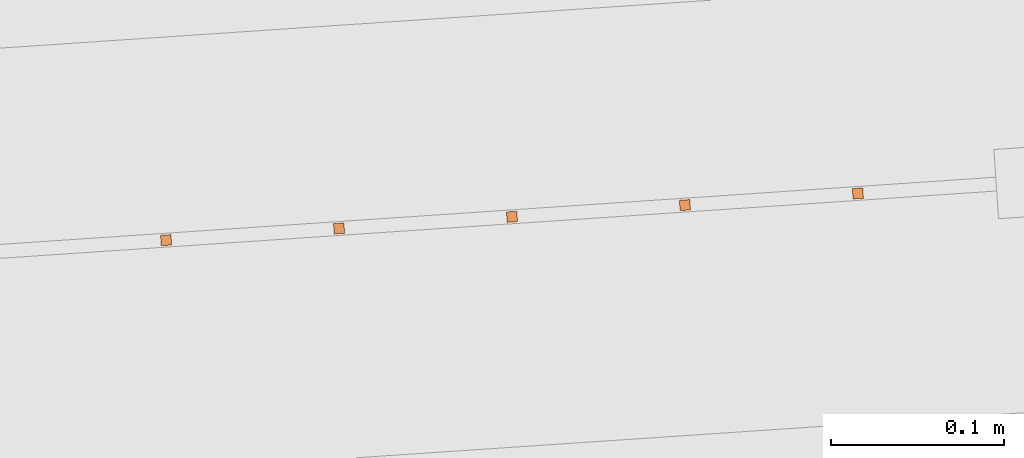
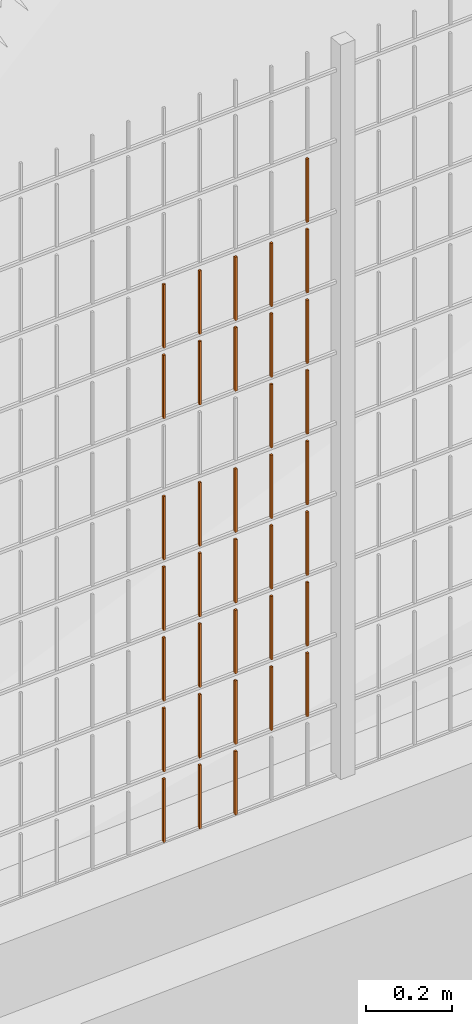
# One storey, part 75 of 1809: 36 proxies, 1 element without a shape of its own.
"""IFC2X3 building model written with IfcOpenShell, lengths in millimetres."""

from ifc_helpers import new_model, entity, si_unit, converted_unit, derived_unit, money_unit, direction, frame, origin_with_axes, place, context, subcontext, project, spatial, faceted_brep, source, transform, mapped, material, type_object, element, aggregate, save


model = new_model("IFC2X3")

# Units and contexts
model_context = context("Model", 3, precision=0.01, world=origin_with_axes(), true_north=direction((0.0, 1.0)))
body_context = subcontext(model_context, "Body", "Model", "MODEL_VIEW")
ifc_project = project(units=[si_unit("LENGTHUNIT", "METRE", prefix="MILLI"), si_unit("AREAUNIT", "SQUARE_METRE"), si_unit("VOLUMEUNIT", "CUBIC_METRE"), converted_unit("PLANEANGLEUNIT", "DEGREE", entity("IfcPlaneAngleMeasure", 0.0174532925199), si_unit("PLANEANGLEUNIT", "RADIAN"), dimensions=[0, 0, 0, 0, 0, 0, 0]), si_unit("SOLIDANGLEUNIT", "STERADIAN"), money_unit("EUR"), converted_unit("TIMEUNIT", "Year", entity("IfcTimeMeasure", 31556926.0), si_unit("TIMEUNIT", "SECOND"), dimensions=[0, 0, 1, 0, 0, 0, 0]), si_unit("MASSUNIT", "GRAM", prefix="KILO"), si_unit("THERMODYNAMICTEMPERATUREUNIT", "DEGREE_CELSIUS"), si_unit("LUMINOUSINTENSITYUNIT", "LUMEN"), si_unit("ENERGYUNIT", "JOULE", prefix="MEGA"), derived_unit("THERMALCONDUCTANCEUNIT", [(si_unit("POWERUNIT", "WATT"), 1), (si_unit("LENGTHUNIT", "METRE"), -1), (si_unit("THERMODYNAMICTEMPERATUREUNIT", "KELVIN"), -1)]), derived_unit("SPECIFICHEATCAPACITYUNIT", [(si_unit("ENERGYUNIT", "JOULE"), 1), (si_unit("MASSUNIT", "GRAM", prefix="KILO"), -1), (si_unit("THERMODYNAMICTEMPERATUREUNIT", "KELVIN"), -1)]), derived_unit("MASSDENSITYUNIT", [(si_unit("MASSUNIT", "GRAM", prefix="KILO"), 1), (si_unit("VOLUMEUNIT", "CUBIC_METRE"), -1)])], contexts=[model_context])

# Site, building, storey
site_placement = place(None, origin_with_axes())
site = spatial("IfcSite", under=ifc_project, at=site_placement, Name="Politse- ja Piirivalveameti ning Päästeameti ühishoone", CompositionType="ELEMENT")
building_placement = place(site_placement, origin_with_axes())
building = spatial("IfcBuilding", under=site, at=building_placement, Name="Politse- ja Piirivalveameti ning Päästeameti ühishoone", CompositionType="ELEMENT")
storey_placement = place(building_placement, origin_with_axes())
storey = spatial("IfcBuildingStorey", under=building, at=storey_placement, Name="Esimene korrus", CompositionType="ELEMENT", Elevation=0.0)

# Proxies
building_element_proxy_type_1 = type_object("IfcBuildingElementProxyType", Name="Railing Type", PredefinedType="NOTDEFINED")
proxy_1_placement = place(storey_placement, frame((89252.001212, -29183.4766571, 203.661247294), z_axis=(0.0, 0.0, 1.0), x_axis=(1.0, 0.0, 0.0)))
proxy_1 = element("IfcBuildingElementProxy", 1, at=proxy_1_placement, inside=storey, type_object=building_element_proxy_type_1, Name="PIIRDEAED")
ifc_material = material(Name="ET-03_Raud")
building_element_proxy_type_2 = type_object("IfcBuildingElementProxyType", Name="IfcBuildingElementProxy", PredefinedType="NOTDEFINED")
shared_shape_1 = source(origin_with_axes(), body_context, "Body", "Brep", [
    faceted_brep([(3.0, 3.0, -0.000752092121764), (-3.0, 3.0, -0.000752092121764), (-3.0, 3.0, 179.99926046), (3.0, 3.0, 179.99926046), (3.0, -3.0, 0.000752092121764), (-3.0, -3.0, 0.000752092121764), (-3.0, -3.0, 180.000764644), (3.0, -3.0, 180.000764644)], [[[0, 1, 2, 3]], [[0, 4, 5, 1]], [[1, 5, 6, 2]], [[3, 2, 6, 7]], [[4, 0, 3, 7]], [[5, 4, 7, 6]]]),
])
proxy_2_placement = place(proxy_1_placement, frame((-104987.458276, -24389.2813598, 800.85433117), z_axis=(0.0, 0.0, 1.0), x_axis=(1.0, 0.0, 0.0)))
proxy_2 = element("IfcBuildingElementProxy", 2, at=proxy_2_placement, type_object=building_element_proxy_type_2, material=ifc_material, Name="BALUSTER - 001", context=body_context, shape_type="MappedRepresentation", body=[
    mapped(shared_shape_1, transform((0.0, 0.0, 0.0), x_axis=(-0.0673926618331, 0.997726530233, 0.0), y_axis=(-0.997726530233, -0.0673926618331, 0.0), z_axis=(0.0, 0.0, 1.0))),
])
shared_shape_2 = source(origin_with_axes(), body_context, "Body", "Brep", [
    faceted_brep([(3.0, 3.0, -0.000752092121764), (-3.0, 3.0, -0.000752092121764), (-3.0, 3.0, 179.99926046), (3.0, 3.0, 179.99926046), (3.0, -3.0, 0.000752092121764), (-3.0, -3.0, 0.000752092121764), (-3.0, -3.0, 180.000764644), (3.0, -3.0, 180.000764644)], [[[0, 1, 2, 3]], [[0, 4, 5, 1]], [[1, 5, 6, 2]], [[3, 2, 6, 7]], [[4, 0, 3, 7]], [[5, 4, 7, 6]]]),
])
proxy_3_placement = place(proxy_1_placement, frame((-104787.91297, -24375.8028274, 800.904470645), z_axis=(0.0, 0.0, 1.0), x_axis=(1.0, 0.0, 0.0)))
proxy_3 = element("IfcBuildingElementProxy", 3, at=proxy_3_placement, type_object=building_element_proxy_type_2, material=ifc_material, Name="BALUSTER - 001", context=body_context, shape_type="MappedRepresentation", body=[
    mapped(shared_shape_2, transform((0.0, 0.0, 0.0), x_axis=(-0.0673926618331, 0.997726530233, 0.0), y_axis=(-0.997726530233, -0.0673926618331, 0.0), z_axis=(0.0, 0.0, 1.0))),
])
shared_shape_3 = source(origin_with_axes(), body_context, "Body", "Brep", [
    faceted_brep([(3.0, 3.0, -0.000752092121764), (-3.0, 3.0, -0.000752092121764), (-3.0, 3.0, 179.99926046), (3.0, 3.0, 179.99926046), (3.0, -3.0, 0.000752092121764), (-3.0, -3.0, 0.000752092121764), (-3.0, -3.0, 180.000764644), (3.0, -3.0, 180.000764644)], [[[0, 1, 2, 3]], [[0, 4, 5, 1]], [[1, 5, 6, 2]], [[3, 2, 6, 7]], [[4, 0, 3, 7]], [[5, 4, 7, 6]]]),
])
proxy_4_placement = place(proxy_1_placement, frame((-104787.91297, -24375.8028274, 200.904470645), z_axis=(0.0, 0.0, 1.0), x_axis=(1.0, 0.0, 0.0)))
proxy_4 = element("IfcBuildingElementProxy", 4, at=proxy_4_placement, type_object=building_element_proxy_type_2, material=ifc_material, Name="BALUSTER - 001", context=body_context, shape_type="MappedRepresentation", body=[
    mapped(shared_shape_3, transform((0.0, 0.0, 0.0), x_axis=(-0.0673926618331, 0.997726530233, 0.0), y_axis=(-0.997726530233, -0.0673926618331, 0.0), z_axis=(0.0, 0.0, 1.0))),
])
shared_shape_4 = source(origin_with_axes(), body_context, "Body", "Brep", [
    faceted_brep([(3.0, 3.0, -0.000752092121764), (-3.0, 3.0, -0.000752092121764), (-3.0, 3.0, 179.99926046), (3.0, 3.0, 179.99926046), (3.0, -3.0, 0.000752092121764), (-3.0, -3.0, 0.000752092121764), (-3.0, -3.0, 180.000764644), (3.0, -3.0, 180.000764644)], [[[0, 1, 2, 3]], [[0, 4, 5, 1]], [[1, 5, 6, 2]], [[3, 2, 6, 7]], [[4, 0, 3, 7]], [[5, 4, 7, 6]]]),
])
proxy_5_placement = place(proxy_1_placement, frame((-104787.91297, -24375.8028274, 400.904470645), z_axis=(0.0, 0.0, 1.0), x_axis=(1.0, 0.0, 0.0)))
proxy_5 = element("IfcBuildingElementProxy", 5, at=proxy_5_placement, type_object=building_element_proxy_type_2, material=ifc_material, Name="BALUSTER - 001", context=body_context, shape_type="MappedRepresentation", body=[
    mapped(shared_shape_4, transform((0.0, 0.0, 0.0), x_axis=(-0.0673926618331, 0.997726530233, 0.0), y_axis=(-0.997726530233, -0.0673926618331, 0.0), z_axis=(0.0, 0.0, 1.0))),
])
proxy_6_placement = place(proxy_1_placement, frame((-104987.458276, -24389.2813598, 400.85433117), z_axis=(0.0, 0.0, 1.0), x_axis=(1.0, 0.0, 0.0)))
proxy_6 = element("IfcBuildingElementProxy", 6, at=proxy_6_placement, type_object=building_element_proxy_type_2, material=ifc_material, Name="BALUSTER - 001", context=body_context, shape_type="MappedRepresentation", body=[
    mapped(shared_shape_4, transform((0.0, 0.0, 0.0), x_axis=(-0.0673926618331, 0.997726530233, 0.0), y_axis=(-0.997726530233, -0.0673926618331, 0.0), z_axis=(0.0, 0.0, 1.0))),
])
proxy_7_placement = place(proxy_1_placement, frame((-104787.91297, -24375.8028274, 600.904470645), z_axis=(0.0, 0.0, 1.0), x_axis=(1.0, 0.0, 0.0)))
proxy_7 = element("IfcBuildingElementProxy", 7, at=proxy_7_placement, type_object=building_element_proxy_type_2, material=ifc_material, Name="BALUSTER - 001", context=body_context, shape_type="MappedRepresentation", body=[
    mapped(shared_shape_4, transform((0.0, 0.0, 0.0), x_axis=(-0.0673926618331, 0.997726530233, 0.0), y_axis=(-0.997726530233, -0.0673926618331, 0.0), z_axis=(0.0, 0.0, 1.0))),
])
proxy_8_placement = place(proxy_1_placement, frame((-104987.458276, -24389.2813598, 600.85433117), z_axis=(0.0, 0.0, 1.0), x_axis=(1.0, 0.0, 0.0)))
proxy_8 = element("IfcBuildingElementProxy", 8, at=proxy_8_placement, type_object=building_element_proxy_type_2, material=ifc_material, Name="BALUSTER - 001", context=body_context, shape_type="MappedRepresentation", body=[
    mapped(shared_shape_4, transform((0.0, 0.0, 0.0), x_axis=(-0.0673926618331, 0.997726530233, 0.0), y_axis=(-0.997726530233, -0.0673926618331, 0.0), z_axis=(0.0, 0.0, 1.0))),
])
shared_shape_5 = source(origin_with_axes(), body_context, "Body", "Brep", [
    faceted_brep([(3.0, 3.0, -0.000752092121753), (-3.0, 3.0, -0.000752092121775), (-3.0, 3.0, 179.99926046), (3.0, 3.0, 179.99926046), (3.0, -3.0, 0.000752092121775), (-3.0, -3.0, 0.000752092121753), (-3.0, -3.0, 180.000764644), (3.0, -3.0, 180.000764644)], [[[0, 1, 2, 3]], [[0, 4, 5, 1]], [[1, 5, 6, 2]], [[3, 2, 6, 7]], [[4, 0, 3, 7]], [[5, 4, 7, 6]]]),
])
proxy_9_placement = place(proxy_1_placement, frame((-105087.230929, -24396.0206259, 0.829261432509), z_axis=(0.0, 0.0, 1.0), x_axis=(1.0, 0.0, 0.0)))
proxy_9 = element("IfcBuildingElementProxy", 9, at=proxy_9_placement, type_object=building_element_proxy_type_2, material=ifc_material, Name="BALUSTER - 001", context=body_context, shape_type="MappedRepresentation", body=[
    mapped(shared_shape_5, transform((0.0, 0.0, 0.0), x_axis=(-0.0673926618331, 0.997726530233, 0.0), y_axis=(-0.997726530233, -0.0673926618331, 0.0), z_axis=(0.0, 0.0, 1.0))),
])
shared_shape_6 = source(origin_with_axes(), body_context, "Body", "Brep", [
    faceted_brep([(3.0, 3.0, -0.000752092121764), (-3.0, 3.0, -0.000752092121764), (-3.0, 3.0, 179.99926046), (3.0, 3.0, 179.99926046), (3.0, -3.0, 0.000752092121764), (-3.0, -3.0, 0.000752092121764), (-3.0, -3.0, 180.000764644), (3.0, -3.0, 180.000764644)], [[[0, 1, 2, 3]], [[0, 4, 5, 1]], [[1, 5, 6, 2]], [[3, 2, 6, 7]], [[4, 0, 3, 7]], [[5, 4, 7, 6]]]),
])
proxy_10_placement = place(proxy_1_placement, frame((-104688.140317, -24369.0635612, 400.929540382), z_axis=(0.0, 0.0, 1.0), x_axis=(1.0, 0.0, 0.0)))
proxy_10 = element("IfcBuildingElementProxy", 10, at=proxy_10_placement, type_object=building_element_proxy_type_2, material=ifc_material, Name="BALUSTER - 001", context=body_context, shape_type="MappedRepresentation", body=[
    mapped(shared_shape_6, transform((0.0, 0.0, 0.0), x_axis=(-0.0673926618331, 0.997726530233, 0.0), y_axis=(-0.997726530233, -0.0673926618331, 0.0), z_axis=(0.0, 0.0, 1.0))),
])
proxy_11_placement = place(proxy_1_placement, frame((-104688.140317, -24369.0635612, 600.929540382), z_axis=(0.0, 0.0, 1.0), x_axis=(1.0, 0.0, 0.0)))
proxy_11 = element("IfcBuildingElementProxy", 11, at=proxy_11_placement, type_object=building_element_proxy_type_2, material=ifc_material, Name="BALUSTER - 001", context=body_context, shape_type="MappedRepresentation", body=[
    mapped(shared_shape_6, transform((0.0, 0.0, 0.0), x_axis=(-0.0673926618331, 0.997726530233, 0.0), y_axis=(-0.997726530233, -0.0673926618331, 0.0), z_axis=(0.0, 0.0, 1.0))),
])
shared_shape_7 = source(origin_with_axes(), body_context, "Body", "Brep", [
    faceted_brep([(3.0, 3.0, -0.000752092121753), (-3.0, 3.0, -0.000752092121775), (-3.0, 3.0, 179.99926046), (3.0, 3.0, 179.99926046), (3.0, -3.0, 0.000752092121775), (-3.0, -3.0, 0.000752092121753), (-3.0, -3.0, 180.000764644), (3.0, -3.0, 180.000764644)], [[[0, 1, 2, 3]], [[0, 4, 5, 1]], [[1, 5, 6, 2]], [[3, 2, 6, 7]], [[4, 0, 3, 7]], [[5, 4, 7, 6]]]),
])
proxy_12_placement = place(proxy_1_placement, frame((-104887.685623, -24382.5420936, 0.879400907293), z_axis=(0.0, 0.0, 1.0), x_axis=(1.0, 0.0, 0.0)))
proxy_12 = element("IfcBuildingElementProxy", 12, at=proxy_12_placement, type_object=building_element_proxy_type_2, material=ifc_material, Name="BALUSTER - 001", context=body_context, shape_type="MappedRepresentation", body=[
    mapped(shared_shape_7, transform((0.0, 0.0, 0.0), x_axis=(-0.0673926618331, 0.997726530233, 0.0), y_axis=(-0.997726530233, -0.0673926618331, 0.0), z_axis=(0.0, 0.0, 1.0))),
])
proxy_13_placement = place(proxy_1_placement, frame((-104887.685623, -24382.5420936, 200.879400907), z_axis=(0.0, 0.0, 1.0), x_axis=(1.0, 0.0, 0.0)))
proxy_13 = element("IfcBuildingElementProxy", 13, at=proxy_13_placement, type_object=building_element_proxy_type_2, material=ifc_material, Name="BALUSTER - 001", context=body_context, shape_type="MappedRepresentation", body=[
    mapped(shared_shape_7, transform((0.0, 0.0, 0.0), x_axis=(-0.0673926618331, 0.997726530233, 0.0), y_axis=(-0.997726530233, -0.0673926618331, 0.0), z_axis=(0.0, 0.0, 1.0))),
])
shared_shape_8 = source(origin_with_axes(), body_context, "Body", "Brep", [
    faceted_brep([(3.0, 3.0, -0.000752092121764), (-3.0, 3.0, -0.000752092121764), (-3.0, 3.0, 179.99926046), (3.0, 3.0, 179.99926046), (3.0, -3.0, 0.000752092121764), (-3.0, -3.0, 0.000752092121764), (-3.0, -3.0, 180.000764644), (3.0, -3.0, 180.000764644)], [[[0, 1, 2, 3]], [[0, 4, 5, 1]], [[1, 5, 6, 2]], [[3, 2, 6, 7]], [[4, 0, 3, 7]], [[5, 4, 7, 6]]]),
])
proxy_14_placement = place(proxy_1_placement, frame((-104688.140317, -24369.0635612, 200.929540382), z_axis=(0.0, 0.0, 1.0), x_axis=(1.0, 0.0, 0.0)))
proxy_14 = element("IfcBuildingElementProxy", 14, at=proxy_14_placement, type_object=building_element_proxy_type_2, material=ifc_material, Name="BALUSTER - 001", context=body_context, shape_type="MappedRepresentation", body=[
    mapped(shared_shape_8, transform((0.0, 0.0, 0.0), x_axis=(-0.0673926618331, 0.997726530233, 0.0), y_axis=(-0.997726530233, -0.0673926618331, 0.0), z_axis=(0.0, 0.0, 1.0))),
])
shared_shape_9 = source(origin_with_axes(), body_context, "Body", "Brep", [
    faceted_brep([(3.0, 3.0, -0.000752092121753), (-3.0, 3.0, -0.000752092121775), (-3.0, 3.0, 179.99926046), (3.0, 3.0, 179.99926046), (3.0, -3.0, 0.000752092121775), (-3.0, -3.0, 0.000752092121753), (-3.0, -3.0, 180.000764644), (3.0, -3.0, 180.000764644)], [[[0, 1, 2, 3]], [[0, 4, 5, 1]], [[1, 5, 6, 2]], [[3, 2, 6, 7]], [[4, 0, 3, 7]], [[5, 4, 7, 6]]]),
])
proxy_15_placement = place(proxy_1_placement, frame((-104887.685623, -24382.5420936, 400.879400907), z_axis=(0.0, 0.0, 1.0), x_axis=(1.0, 0.0, 0.0)))
proxy_15 = element("IfcBuildingElementProxy", 15, at=proxy_15_placement, type_object=building_element_proxy_type_2, material=ifc_material, Name="BALUSTER - 001", context=body_context, shape_type="MappedRepresentation", body=[
    mapped(shared_shape_9, transform((0.0, 0.0, 0.0), x_axis=(-0.0673926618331, 0.997726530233, 0.0), y_axis=(-0.997726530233, -0.0673926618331, 0.0), z_axis=(0.0, 0.0, 1.0))),
])
shared_shape_10 = source(origin_with_axes(), body_context, "Body", "Brep", [
    faceted_brep([(3.0, 3.0, -0.000752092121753), (-3.0, 3.0, -0.000752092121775), (-3.0, 3.0, 179.99926046), (3.0, 3.0, 179.99926046), (3.0, -3.0, 0.000752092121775), (-3.0, -3.0, 0.000752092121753), (-3.0, -3.0, 180.000764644), (3.0, -3.0, 180.000764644)], [[[0, 1, 2, 3]], [[0, 4, 5, 1]], [[1, 5, 6, 2]], [[3, 2, 6, 7]], [[4, 0, 3, 7]], [[5, 4, 7, 6]]]),
])
proxy_16_placement = place(proxy_1_placement, frame((-105087.230929, -24396.0206259, 800.829261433), z_axis=(0.0, 0.0, 1.0), x_axis=(1.0, 0.0, 0.0)))
proxy_16 = element("IfcBuildingElementProxy", 16, at=proxy_16_placement, type_object=building_element_proxy_type_2, material=ifc_material, Name="BALUSTER - 001", context=body_context, shape_type="MappedRepresentation", body=[
    mapped(shared_shape_10, transform((0.0, 0.0, 0.0), x_axis=(-0.0673926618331, 0.997726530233, 0.0), y_axis=(-0.997726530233, -0.0673926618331, 0.0), z_axis=(0.0, 0.0, 1.0))),
])
proxy_17_placement = place(proxy_1_placement, frame((-105087.230929, -24396.0206259, 1200.82926143), z_axis=(0.0, 0.0, 1.0), x_axis=(1.0, 0.0, 0.0)))
proxy_17 = element("IfcBuildingElementProxy", 17, at=proxy_17_placement, type_object=building_element_proxy_type_2, material=ifc_material, Name="BALUSTER - 001", context=body_context, shape_type="MappedRepresentation", body=[
    mapped(shared_shape_10, transform((0.0, 0.0, 0.0), x_axis=(-0.0673926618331, 0.997726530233, 0.0), y_axis=(-0.997726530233, -0.0673926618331, 0.0), z_axis=(0.0, 0.0, 1.0))),
])
shared_shape_11 = source(origin_with_axes(), body_context, "Body", "Brep", [
    faceted_brep([(3.0, 3.0, -0.000752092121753), (-3.0, 3.0, -0.000752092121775), (-3.0, 3.0, 179.99926046), (3.0, 3.0, 179.99926046), (3.0, -3.0, 0.000752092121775), (-3.0, -3.0, 0.000752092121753), (-3.0, -3.0, 180.000764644), (3.0, -3.0, 180.000764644)], [[[0, 1, 2, 3]], [[0, 4, 5, 1]], [[1, 5, 6, 2]], [[3, 2, 6, 7]], [[4, 0, 3, 7]], [[5, 4, 7, 6]]]),
])
proxy_18_placement = place(proxy_1_placement, frame((-105087.230929, -24396.0206259, 1400.82926143), z_axis=(0.0, 0.0, 1.0), x_axis=(1.0, 0.0, 0.0)))
proxy_18 = element("IfcBuildingElementProxy", 18, at=proxy_18_placement, type_object=building_element_proxy_type_2, material=ifc_material, Name="BALUSTER - 001", context=body_context, shape_type="MappedRepresentation", body=[
    mapped(shared_shape_11, transform((0.0, 0.0, 0.0), x_axis=(-0.0673926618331, 0.997726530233, 0.0), y_axis=(-0.997726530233, -0.0673926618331, 0.0), z_axis=(0.0, 0.0, 1.0))),
])
shared_shape_12 = source(origin_with_axes(), body_context, "Body", "Brep", [
    faceted_brep([(3.0, 3.0, -0.000752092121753), (-3.0, 3.0, -0.000752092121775), (-3.0, 3.0, 179.99926046), (3.0, 3.0, 179.99926046), (3.0, -3.0, 0.000752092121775), (-3.0, -3.0, 0.000752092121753), (-3.0, -3.0, 180.000764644), (3.0, -3.0, 180.000764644)], [[[0, 1, 2, 3]], [[0, 4, 5, 1]], [[1, 5, 6, 2]], [[3, 2, 6, 7]], [[4, 0, 3, 7]], [[5, 4, 7, 6]]]),
])
proxy_19_placement = place(proxy_1_placement, frame((-104887.685623, -24382.5420936, 800.879400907), z_axis=(0.0, 0.0, 1.0), x_axis=(1.0, 0.0, 0.0)))
proxy_19 = element("IfcBuildingElementProxy", 19, at=proxy_19_placement, type_object=building_element_proxy_type_2, material=ifc_material, Name="BALUSTER - 001", context=body_context, shape_type="MappedRepresentation", body=[
    mapped(shared_shape_12, transform((0.0, 0.0, 0.0), x_axis=(-0.0673926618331, 0.997726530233, 0.0), y_axis=(-0.997726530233, -0.0673926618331, 0.0), z_axis=(0.0, 0.0, 1.0))),
])
shared_shape_13 = source(origin_with_axes(), body_context, "Body", "Brep", [
    faceted_brep([(3.0, 3.0, -0.000752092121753), (-3.0, 3.0, -0.000752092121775), (-3.0, 3.0, 179.99926046), (3.0, 3.0, 179.99926046), (3.0, -3.0, 0.000752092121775), (-3.0, -3.0, 0.000752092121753), (-3.0, -3.0, 180.000764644), (3.0, -3.0, 180.000764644)], [[[0, 1, 2, 3]], [[0, 4, 5, 1]], [[1, 5, 6, 2]], [[3, 2, 6, 7]], [[4, 0, 3, 7]], [[5, 4, 7, 6]]]),
])
proxy_20_placement = place(proxy_1_placement, frame((-105087.230929, -24396.0206259, 200.829261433), z_axis=(0.0, 0.0, 1.0), x_axis=(1.0, 0.0, 0.0)))
proxy_20 = element("IfcBuildingElementProxy", 20, at=proxy_20_placement, type_object=building_element_proxy_type_2, material=ifc_material, Name="BALUSTER - 001", context=body_context, shape_type="MappedRepresentation", body=[
    mapped(shared_shape_13, transform((0.0, 0.0, 0.0), x_axis=(-0.0673926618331, 0.997726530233, 0.0), y_axis=(-0.997726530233, -0.0673926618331, 0.0), z_axis=(0.0, 0.0, 1.0))),
])
proxy_21_placement = place(proxy_1_placement, frame((-105087.230929, -24396.0206259, 400.829261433), z_axis=(0.0, 0.0, 1.0), x_axis=(1.0, 0.0, 0.0)))
proxy_21 = element("IfcBuildingElementProxy", 21, at=proxy_21_placement, type_object=building_element_proxy_type_2, material=ifc_material, Name="BALUSTER - 001", context=body_context, shape_type="MappedRepresentation", body=[
    mapped(shared_shape_13, transform((0.0, 0.0, 0.0), x_axis=(-0.0673926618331, 0.997726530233, 0.0), y_axis=(-0.997726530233, -0.0673926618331, 0.0), z_axis=(0.0, 0.0, 1.0))),
])
proxy_22_placement = place(proxy_1_placement, frame((-105087.230929, -24396.0206259, 600.829261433), z_axis=(0.0, 0.0, 1.0), x_axis=(1.0, 0.0, 0.0)))
proxy_22 = element("IfcBuildingElementProxy", 22, at=proxy_22_placement, type_object=building_element_proxy_type_2, material=ifc_material, Name="BALUSTER - 001", context=body_context, shape_type="MappedRepresentation", body=[
    mapped(shared_shape_13, transform((0.0, 0.0, 0.0), x_axis=(-0.0673926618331, 0.997726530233, 0.0), y_axis=(-0.997726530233, -0.0673926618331, 0.0), z_axis=(0.0, 0.0, 1.0))),
])
shared_shape_14 = source(origin_with_axes(), body_context, "Body", "Brep", [
    faceted_brep([(3.0, 3.0, -0.000752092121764), (-3.0, 3.0, -0.000752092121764), (-3.0, 3.0, 179.99926046), (3.0, 3.0, 179.99926046), (3.0, -3.0, 0.000752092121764), (-3.0, -3.0, 0.000752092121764), (-3.0, -3.0, 180.000764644), (3.0, -3.0, 180.000764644)], [[[0, 1, 2, 3]], [[0, 4, 5, 1]], [[1, 5, 6, 2]], [[3, 2, 6, 7]], [[4, 0, 3, 7]], [[5, 4, 7, 6]]]),
])
proxy_23_placement = place(proxy_1_placement, frame((-104688.140317, -24369.0635612, 800.929540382), z_axis=(0.0, 0.0, 1.0), x_axis=(1.0, 0.0, 0.0)))
proxy_23 = element("IfcBuildingElementProxy", 23, at=proxy_23_placement, type_object=building_element_proxy_type_2, material=ifc_material, Name="BALUSTER - 001", context=body_context, shape_type="MappedRepresentation", body=[
    mapped(shared_shape_14, transform((0.0, 0.0, 0.0), x_axis=(-0.0673926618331, 0.997726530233, 0.0), y_axis=(-0.997726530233, -0.0673926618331, 0.0), z_axis=(0.0, 0.0, 1.0))),
])
proxy_24_placement = place(proxy_1_placement, frame((-104688.140317, -24369.0635612, 1200.92954038), z_axis=(0.0, 0.0, 1.0), x_axis=(1.0, 0.0, 0.0)))
proxy_24 = element("IfcBuildingElementProxy", 24, at=proxy_24_placement, type_object=building_element_proxy_type_2, material=ifc_material, Name="BALUSTER - 001", context=body_context, shape_type="MappedRepresentation", body=[
    mapped(shared_shape_14, transform((0.0, 0.0, 0.0), x_axis=(-0.0673926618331, 0.997726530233, 0.0), y_axis=(-0.997726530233, -0.0673926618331, 0.0), z_axis=(0.0, 0.0, 1.0))),
])
proxy_25_placement = place(proxy_1_placement, frame((-104987.458276, -24389.2813598, 1200.85433117), z_axis=(0.0, 0.0, 1.0), x_axis=(1.0, 0.0, 0.0)))
proxy_25 = element("IfcBuildingElementProxy", 25, at=proxy_25_placement, type_object=building_element_proxy_type_2, material=ifc_material, Name="BALUSTER - 001", context=body_context, shape_type="MappedRepresentation", body=[
    mapped(shared_shape_14, transform((0.0, 0.0, 0.0), x_axis=(-0.0673926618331, 0.997726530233, 0.0), y_axis=(-0.997726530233, -0.0673926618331, 0.0), z_axis=(0.0, 0.0, 1.0))),
])
shared_shape_15 = source(origin_with_axes(), body_context, "Body", "Brep", [
    faceted_brep([(3.0, 3.0, -0.000752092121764), (-3.0, 3.0, -0.000752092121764), (-3.0, 3.0, 179.99926046), (3.0, 3.0, 179.99926046), (3.0, -3.0, 0.000752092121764), (-3.0, -3.0, 0.000752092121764), (-3.0, -3.0, 180.000764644), (3.0, -3.0, 180.000764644)], [[[0, 1, 2, 3]], [[0, 4, 5, 1]], [[1, 5, 6, 2]], [[3, 2, 6, 7]], [[4, 0, 3, 7]], [[5, 4, 7, 6]]]),
])
proxy_26_placement = place(proxy_1_placement, frame((-104688.140317, -24369.0635612, 1400.92954038), z_axis=(0.0, 0.0, 1.0), x_axis=(1.0, 0.0, 0.0)))
proxy_26 = element("IfcBuildingElementProxy", 26, at=proxy_26_placement, type_object=building_element_proxy_type_2, material=ifc_material, Name="BALUSTER - 001", context=body_context, shape_type="MappedRepresentation", body=[
    mapped(shared_shape_15, transform((0.0, 0.0, 0.0), x_axis=(-0.0673926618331, 0.997726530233, 0.0), y_axis=(-0.997726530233, -0.0673926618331, 0.0), z_axis=(0.0, 0.0, 1.0))),
])
proxy_27_placement = place(proxy_1_placement, frame((-104987.458276, -24389.2813598, 1400.85433117), z_axis=(0.0, 0.0, 1.0), x_axis=(1.0, 0.0, 0.0)))
proxy_27 = element("IfcBuildingElementProxy", 27, at=proxy_27_placement, type_object=building_element_proxy_type_2, material=ifc_material, Name="BALUSTER - 001", context=body_context, shape_type="MappedRepresentation", body=[
    mapped(shared_shape_15, transform((0.0, 0.0, 0.0), x_axis=(-0.0673926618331, 0.997726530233, 0.0), y_axis=(-0.997726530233, -0.0673926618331, 0.0), z_axis=(0.0, 0.0, 1.0))),
])
proxy_28_placement = place(proxy_1_placement, frame((-104688.140317, -24369.0635612, 1600.92954038), z_axis=(0.0, 0.0, 1.0), x_axis=(1.0, 0.0, 0.0)))
proxy_28 = element("IfcBuildingElementProxy", 28, at=proxy_28_placement, type_object=building_element_proxy_type_2, material=ifc_material, Name="BALUSTER - 001", context=body_context, shape_type="MappedRepresentation", body=[
    mapped(shared_shape_15, transform((0.0, 0.0, 0.0), x_axis=(-0.0673926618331, 0.997726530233, 0.0), y_axis=(-0.997726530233, -0.0673926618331, 0.0), z_axis=(0.0, 0.0, 1.0))),
])
shared_shape_16 = source(origin_with_axes(), body_context, "Body", "Brep", [
    faceted_brep([(3.0, 3.0, -0.000752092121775), (-3.0, 3.0, -0.000752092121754), (-3.0, 3.0, 179.99926046), (3.0, 3.0, 179.99926046), (3.0, -3.0, 0.000752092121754), (-3.0, -3.0, 0.000752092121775), (-3.0, -3.0, 180.000764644), (3.0, -3.0, 180.000764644)], [[[0, 1, 2, 3]], [[0, 4, 5, 1]], [[1, 5, 6, 2]], [[3, 2, 6, 7]], [[4, 0, 3, 7]], [[5, 4, 7, 6]]]),
])
proxy_29_placement = place(proxy_1_placement, frame((-104787.91297, -24375.8028274, 1200.90447064), z_axis=(0.0, 0.0, 1.0), x_axis=(1.0, 0.0, 0.0)))
proxy_29 = element("IfcBuildingElementProxy", 29, at=proxy_29_placement, type_object=building_element_proxy_type_2, material=ifc_material, Name="BALUSTER - 001", context=body_context, shape_type="MappedRepresentation", body=[
    mapped(shared_shape_16, transform((0.0, 0.0, 0.0), x_axis=(-0.0673926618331, 0.997726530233, 0.0), y_axis=(-0.997726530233, -0.0673926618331, 0.0), z_axis=(0.0, 0.0, 1.0))),
])
shared_shape_17 = source(origin_with_axes(), body_context, "Body", "Brep", [
    faceted_brep([(3.0, 3.0, -0.000752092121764), (-3.0, 3.0, -0.000752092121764), (-3.0, 3.0, 179.99926046), (3.0, 3.0, 179.99926046), (3.0, -3.0, 0.000752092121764), (-3.0, -3.0, 0.000752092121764), (-3.0, -3.0, 180.000764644), (3.0, -3.0, 180.000764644)], [[[0, 1, 2, 3]], [[0, 4, 5, 1]], [[1, 5, 6, 2]], [[3, 2, 6, 7]], [[4, 0, 3, 7]], [[5, 4, 7, 6]]]),
])
proxy_30_placement = place(proxy_1_placement, frame((-104987.458276, -24389.2813598, 200.85433117), z_axis=(0.0, 0.0, 1.0), x_axis=(1.0, 0.0, 0.0)))
proxy_30 = element("IfcBuildingElementProxy", 30, at=proxy_30_placement, type_object=building_element_proxy_type_2, material=ifc_material, Name="BALUSTER - 001", context=body_context, shape_type="MappedRepresentation", body=[
    mapped(shared_shape_17, transform((0.0, 0.0, 0.0), x_axis=(-0.0673926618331, 0.997726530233, 0.0), y_axis=(-0.997726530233, -0.0673926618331, 0.0), z_axis=(0.0, 0.0, 1.0))),
])
shared_shape_18 = source(origin_with_axes(), body_context, "Body", "Brep", [
    faceted_brep([(3.0, 3.0, -0.000752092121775), (-3.0, 3.0, -0.000752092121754), (-3.0, 3.0, 179.99926046), (3.0, 3.0, 179.99926046), (3.0, -3.0, 0.000752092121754), (-3.0, -3.0, 0.000752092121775), (-3.0, -3.0, 180.000764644), (3.0, -3.0, 180.000764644)], [[[0, 1, 2, 3]], [[0, 4, 5, 1]], [[1, 5, 6, 2]], [[3, 2, 6, 7]], [[4, 0, 3, 7]], [[5, 4, 7, 6]]]),
])
proxy_31_placement = place(proxy_1_placement, frame((-104787.91297, -24375.8028274, 1400.90447064), z_axis=(0.0, 0.0, 1.0), x_axis=(1.0, 0.0, 0.0)))
proxy_31 = element("IfcBuildingElementProxy", 31, at=proxy_31_placement, type_object=building_element_proxy_type_2, material=ifc_material, Name="BALUSTER - 001", context=body_context, shape_type="MappedRepresentation", body=[
    mapped(shared_shape_18, transform((0.0, 0.0, 0.0), x_axis=(-0.0673926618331, 0.997726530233, 0.0), y_axis=(-0.997726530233, -0.0673926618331, 0.0), z_axis=(0.0, 0.0, 1.0))),
])
shared_shape_19 = source(origin_with_axes(), body_context, "Body", "Brep", [
    faceted_brep([(3.0, 3.0, -0.000752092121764), (-3.0, 3.0, -0.000752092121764), (-3.0, 3.0, 179.99926046), (3.0, 3.0, 179.99926046), (3.0, -3.0, 0.000752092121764), (-3.0, -3.0, 0.000752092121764), (-3.0, -3.0, 180.000764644), (3.0, -3.0, 180.000764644)], [[[0, 1, 2, 3]], [[0, 4, 5, 1]], [[1, 5, 6, 2]], [[3, 2, 6, 7]], [[4, 0, 3, 7]], [[5, 4, 7, 6]]]),
])
proxy_32_placement = place(proxy_1_placement, frame((-104987.458276, -24389.2813598, 0.854331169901), z_axis=(0.0, 0.0, 1.0), x_axis=(1.0, 0.0, 0.0)))
proxy_32 = element("IfcBuildingElementProxy", 32, at=proxy_32_placement, type_object=building_element_proxy_type_2, material=ifc_material, Name="BALUSTER - 001", context=body_context, shape_type="MappedRepresentation", body=[
    mapped(shared_shape_19, transform((0.0, 0.0, 0.0), x_axis=(-0.0673926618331, 0.997726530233, 0.0), y_axis=(-0.997726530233, -0.0673926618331, 0.0), z_axis=(0.0, 0.0, 1.0))),
])
shared_shape_20 = source(origin_with_axes(), body_context, "Body", "Brep", [
    faceted_brep([(3.0, 3.0, -0.000752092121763), (-3.0, 3.0, -0.000752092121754), (-3.00000000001, 3.0, 179.99926046), (2.99999999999, 3.0, 179.99926046), (3.0, -3.0, 0.000752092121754), (-3.0, -3.0, 0.000752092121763), (-3.00000000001, -3.0, 180.000764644), (2.99999999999, -3.0, 180.000764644)], [[[0, 1, 2, 3]], [[0, 4, 5, 1]], [[1, 5, 6, 2]], [[3, 2, 6, 7]], [[4, 0, 3, 7]], [[5, 4, 7, 6]]]),
])
proxy_33_placement = place(proxy_1_placement, frame((-104787.91297, -24375.8028274, 1000.90447064), z_axis=(0.0, 0.0, 1.0), x_axis=(1.0, 0.0, 0.0)))
proxy_33 = element("IfcBuildingElementProxy", 33, at=proxy_33_placement, type_object=building_element_proxy_type_2, material=ifc_material, Name="BALUSTER - 001", context=body_context, shape_type="MappedRepresentation", body=[
    mapped(shared_shape_20, transform((0.0, 0.0, 0.0), x_axis=(-0.0673926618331, 0.997726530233, 0.0), y_axis=(-0.997726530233, -0.0673926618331, 0.0), z_axis=(0.0, 0.0, 1.0))),
])
shared_shape_21 = source(origin_with_axes(), body_context, "Body", "Brep", [
    faceted_brep([(3.0, 3.0, -0.000752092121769), (-3.0, 3.0, -0.00075209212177), (-3.0, 3.0, 179.99926046), (3.0, 3.0, 179.99926046), (3.0, -3.0, 0.00075209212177), (-3.0, -3.0, 0.000752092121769), (-3.0, -3.0, 180.000764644), (3.0, -3.0, 180.000764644)], [[[0, 1, 2, 3]], [[0, 4, 5, 1]], [[1, 5, 6, 2]], [[3, 2, 6, 7]], [[4, 0, 3, 7]], [[5, 4, 7, 6]]]),
])
proxy_34_placement = place(proxy_1_placement, frame((-104887.685623, -24382.5420936, 1200.87940091), z_axis=(0.0, 0.0, 1.0), x_axis=(1.0, 0.0, 0.0)))
proxy_34 = element("IfcBuildingElementProxy", 34, at=proxy_34_placement, type_object=building_element_proxy_type_2, material=ifc_material, Name="BALUSTER - 001", context=body_context, shape_type="MappedRepresentation", body=[
    mapped(shared_shape_21, transform((0.0, 0.0, 0.0), x_axis=(-0.0673926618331, 0.997726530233, 0.0), y_axis=(-0.997726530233, -0.0673926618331, 0.0), z_axis=(0.0, 0.0, 1.0))),
])
shared_shape_22 = source(origin_with_axes(), body_context, "Body", "Brep", [
    faceted_brep([(3.0, 3.0, -0.000752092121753), (-3.0, 3.0, -0.000752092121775), (-3.0, 3.0, 179.99926046), (3.0, 3.0, 179.99926046), (3.0, -3.0, 0.000752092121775), (-3.0, -3.0, 0.000752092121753), (-3.0, -3.0, 180.000764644), (3.0, -3.0, 180.000764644)], [[[0, 1, 2, 3]], [[0, 4, 5, 1]], [[1, 5, 6, 2]], [[3, 2, 6, 7]], [[4, 0, 3, 7]], [[5, 4, 7, 6]]]),
])
proxy_35_placement = place(proxy_1_placement, frame((-104887.685623, -24382.5420936, 600.879400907), z_axis=(0.0, 0.0, 1.0), x_axis=(1.0, 0.0, 0.0)))
proxy_35 = element("IfcBuildingElementProxy", 35, at=proxy_35_placement, type_object=building_element_proxy_type_2, material=ifc_material, Name="BALUSTER - 001", context=body_context, shape_type="MappedRepresentation", body=[
    mapped(shared_shape_22, transform((0.0, 0.0, 0.0), x_axis=(-0.0673926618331, 0.997726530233, 0.0), y_axis=(-0.997726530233, -0.0673926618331, 0.0), z_axis=(0.0, 0.0, 1.0))),
])
shared_shape_23 = source(origin_with_axes(), body_context, "Body", "Brep", [
    faceted_brep([(3.0, 3.0, -0.000752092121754), (-3.0, 3.0, -0.000752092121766), (-3.00000000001, 3.00000000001, 179.99926046), (2.99999999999, 3.00000000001, 179.99926046), (3.0, -3.0, 0.000752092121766), (-3.0, -3.0, 0.000752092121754), (-3.00000000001, -2.99999999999, 180.000764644), (2.99999999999, -2.99999999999, 180.000764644)], [[[0, 1, 2, 3]], [[0, 4, 5, 1]], [[1, 5, 6, 2]], [[3, 2, 6, 7]], [[4, 0, 3, 7]], [[5, 4, 7, 6]]]),
])
proxy_36_placement = place(proxy_1_placement, frame((-104688.140317, -24369.0635612, 1000.92954038), z_axis=(0.0, 0.0, 1.0), x_axis=(1.0, 0.0, 0.0)))
proxy_36 = element("IfcBuildingElementProxy", 36, at=proxy_36_placement, type_object=building_element_proxy_type_2, material=ifc_material, Name="BALUSTER - 001", context=body_context, shape_type="MappedRepresentation", body=[
    mapped(shared_shape_23, transform((0.0, 0.0, 0.0), x_axis=(-0.0673926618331, 0.997726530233, 0.0), y_axis=(-0.997726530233, -0.0673926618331, 0.0), z_axis=(0.0, 0.0, 1.0))),
])
shared_shape_24 = source(origin_with_axes(), body_context, "Body", "Brep", [
    faceted_brep([(3.0, 3.0, -0.000752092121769), (-3.0, 3.0, -0.00075209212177), (-3.0, 3.0, 179.99926046), (3.0, 3.0, 179.99926046), (3.0, -3.0, 0.00075209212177), (-3.0, -3.0, 0.000752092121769), (-3.0, -3.0, 180.000764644), (3.0, -3.0, 180.000764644)], [[[0, 1, 2, 3]], [[0, 4, 5, 1]], [[1, 5, 6, 2]], [[3, 2, 6, 7]], [[4, 0, 3, 7]], [[5, 4, 7, 6]]]),
])
proxy_37_placement = place(proxy_1_placement, frame((-104887.685623, -24382.5420936, 1400.87940091), z_axis=(0.0, 0.0, 1.0), x_axis=(1.0, 0.0, 0.0)))
proxy_37 = element("IfcBuildingElementProxy", 37, at=proxy_37_placement, type_object=building_element_proxy_type_2, material=ifc_material, Name="BALUSTER - 001", context=body_context, shape_type="MappedRepresentation", body=[
    mapped(shared_shape_24, transform((0.0, 0.0, 0.0), x_axis=(-0.0673926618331, 0.997726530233, 0.0), y_axis=(-0.997726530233, -0.0673926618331, 0.0), z_axis=(0.0, 0.0, 1.0))),
])
aggregate(proxy_1, [proxy_12, proxy_32, proxy_9, proxy_14, proxy_4, proxy_13, proxy_30, proxy_20, proxy_10, proxy_5, proxy_15, proxy_6, proxy_21, proxy_11, proxy_7, proxy_35, proxy_8, proxy_22, proxy_23, proxy_3, proxy_19, proxy_2, proxy_16, proxy_36, proxy_33, proxy_24, proxy_29, proxy_34, proxy_25, proxy_17, proxy_26, proxy_31, proxy_37, proxy_27, proxy_18, proxy_28])

save(model, "model.ifc")
